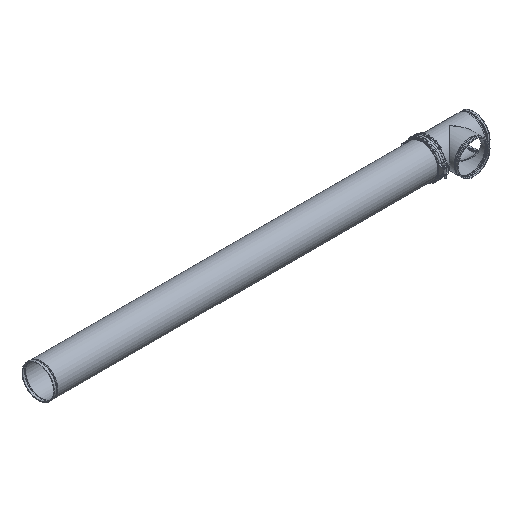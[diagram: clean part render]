
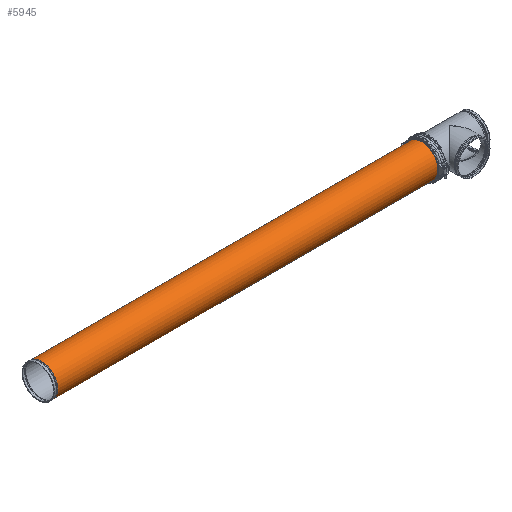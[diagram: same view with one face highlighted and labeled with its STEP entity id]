
A CAD part, isometric view. The second image highlights one B-rep face of the part: STEP entity #5945.
In plain terms, the highlighted cylindrical face has radius 254 mm (diameter 508 mm), a full revolution.
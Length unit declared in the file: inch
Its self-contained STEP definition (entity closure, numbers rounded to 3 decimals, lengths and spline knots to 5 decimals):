
#310=LINE('',#8890,#626);
#626=VECTOR('',#7138,10.);
#941=CYLINDRICAL_SURFACE('',#6375,10.);
#1101=FACE_OUTER_BOUND('',#1411,.T.);
#1411=EDGE_LOOP('',(#3729,#3730,#3731,#3732,#3733,#3734));
#1755=CIRCLE('',#6373,10.);
#1756=CIRCLE('',#6374,10.);
#1757=CIRCLE('',#6376,10.);
#1758=CIRCLE('',#6377,10.);
#2152=VERTEX_POINT('',#8880);
#2153=VERTEX_POINT('',#8881);
#2154=VERTEX_POINT('',#8886);
#2155=VERTEX_POINT('',#8887);
#2789=EDGE_CURVE('',#2152,#2153,#1755,.T.);
#2790=EDGE_CURVE('',#2153,#2152,#1756,.T.);
#2792=EDGE_CURVE('',#2154,#2155,#1757,.T.);
#2793=EDGE_CURVE('',#2155,#2154,#1758,.T.);
#2794=EDGE_CURVE('',#2155,#2153,#310,.T.);
#3729=ORIENTED_EDGE('',*,*,#2792,.F.);
#3730=ORIENTED_EDGE('',*,*,#2793,.F.);
#3731=ORIENTED_EDGE('',*,*,#2794,.T.);
#3732=ORIENTED_EDGE('',*,*,#2790,.T.);
#3733=ORIENTED_EDGE('',*,*,#2789,.T.);
#3734=ORIENTED_EDGE('',*,*,#2794,.F.);
#5945=ADVANCED_FACE('',(#1101),#941,.T.);
#6373=AXIS2_PLACEMENT_3D('',#8882,#7127,#7128);
#6374=AXIS2_PLACEMENT_3D('',#8883,#7129,#7130);
#6375=AXIS2_PLACEMENT_3D('',#8885,#7132,#7133);
#6376=AXIS2_PLACEMENT_3D('',#8888,#7134,#7135);
#6377=AXIS2_PLACEMENT_3D('',#8889,#7136,#7137);
#7127=DIRECTION('center_axis',(1.,0.,0.));
#7128=DIRECTION('ref_axis',(0.,1.,0.));
#7129=DIRECTION('center_axis',(1.,0.,0.));
#7130=DIRECTION('ref_axis',(0.,1.,0.));
#7132=DIRECTION('center_axis',(1.,0.,0.));
#7133=DIRECTION('ref_axis',(0.,1.,0.));
#7134=DIRECTION('center_axis',(1.,0.,0.));
#7135=DIRECTION('ref_axis',(0.,1.,0.));
#7136=DIRECTION('center_axis',(1.,0.,0.));
#7137=DIRECTION('ref_axis',(0.,1.,0.));
#7138=DIRECTION('',(-1.,0.,0.));
#8880=CARTESIAN_POINT('',(-117.88023,10.,0.));
#8881=CARTESIAN_POINT('',(-117.88023,-10.,0.));
#8882=CARTESIAN_POINT('Origin',(-117.88023,0.,
0.));
#8883=CARTESIAN_POINT('Origin',(-117.88023,0.,
0.));
#8885=CARTESIAN_POINT('Origin',(0.,0.,
0.));
#8886=CARTESIAN_POINT('',(117.88023,10.,0.));
#8887=CARTESIAN_POINT('',(117.88023,-10.,0.));
#8888=CARTESIAN_POINT('Origin',(117.88023,0.,0.));
#8889=CARTESIAN_POINT('Origin',(117.88023,0.,0.));
#8890=CARTESIAN_POINT('',(0.,-10.,0.));
